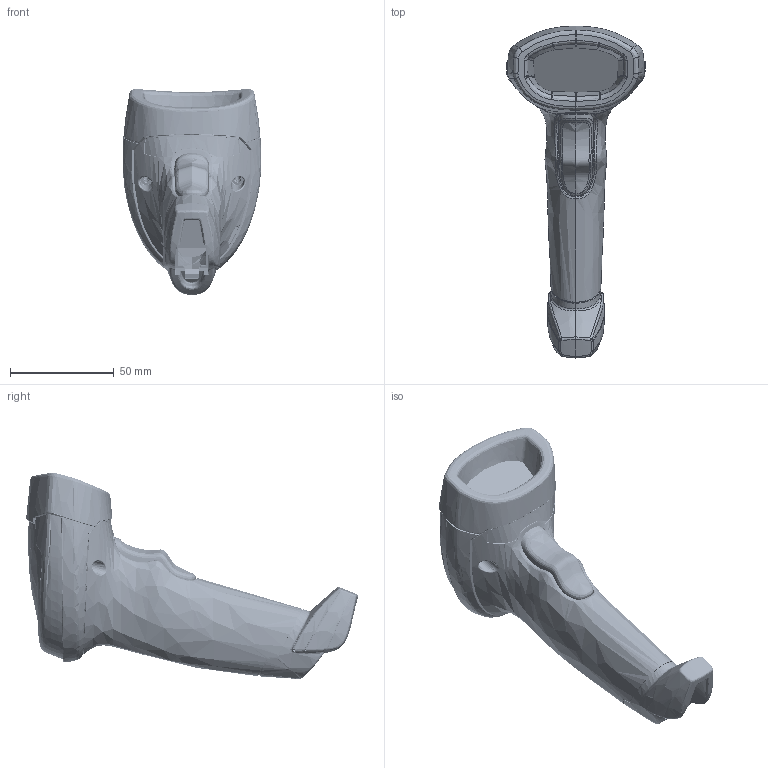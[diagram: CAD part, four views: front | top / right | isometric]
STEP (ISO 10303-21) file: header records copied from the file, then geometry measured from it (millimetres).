
FILE_DESCRIPTION((''),'2;1');
FILE_NAME('20-169291_ASSY_FINAL__SW01','2016-12-01T',('DHFW78'),('Zebra Technologies Corp.'),'CREO PARAMETRIC BY PTC INC, 2016130','CREO PARAMETRIC BY PTC INC, 2016130','');
FILE_SCHEMA(('CONFIG_CONTROL_DESIGN'));
Products named in the file (1): 20-169291_ASSY_FINAL__SW01
Bounding box: 66.68 x 159.7 x 99.15 mm (x, y, z)
Surface area: 91432.7 mm2 (no closed solid volume)
Topology: 0 solids, 0 shells, 5830 faces, 28610 edges, 28506 vertices
Faces by surface type: bspline 5646, sphere 139, torus 45
Entity records: 812089 total; most frequent: CARTESIAN_POINT 618684, DEFINITIONAL_REPRESENTATION 28366, PCURVE 28366, COMPOSITE_CURVE_SEGMENT 28366, B_SPLINE_CURVE_WITH_KNOTS 26584, DIRECTION 19201, TRIMMED_CURVE 15965, VECTOR 13097
